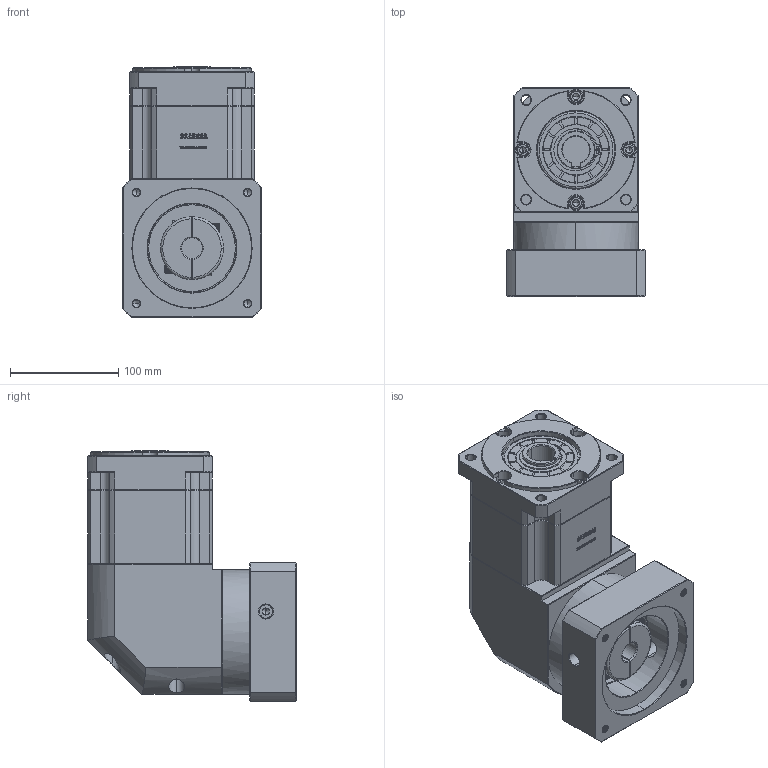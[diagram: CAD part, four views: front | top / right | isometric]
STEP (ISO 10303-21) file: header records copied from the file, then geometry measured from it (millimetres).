
FILE_DESCRIPTION (( 'STEP AP214' ), '1' );
FILE_NAME ('ZBR115A-K25-L2-19-110-145-M8.step', '2023-03-03T05:06:30', ( '' ), ( 'Microsoft' ), 'SwSTEP 2.0', 'SolidWorks 2016', '' );
FILE_SCHEMA (( 'AUTOMOTIVE_DESIGN' ));
Length unit declared in the file: millimetre
Products named in the file (1): ZBR115A-K25-L2-19-110-145-M8
Bounding box: 128 x 192.4 x 231.5 mm (x, y, z)
Volume: 3328317.3 mm3; surface area: 264393 mm2
Topology: 6 solids, 6 shells, 2926 faces, 7761 edges, 4981 vertices
Faces by surface type: plane 1552, bspline 598, cylinder 406, cone 362, torus 8
Entity records: 156344 total; most frequent: CARTESIAN_POINT 56178, ORIENTED_EDGE 15466, DIRECTION 11735, EDGE_CURVE 7733, LINE 5253, VECTOR 5253, VERTEX_POINT 4981, AXIS2_PLACEMENT_3D 3241
